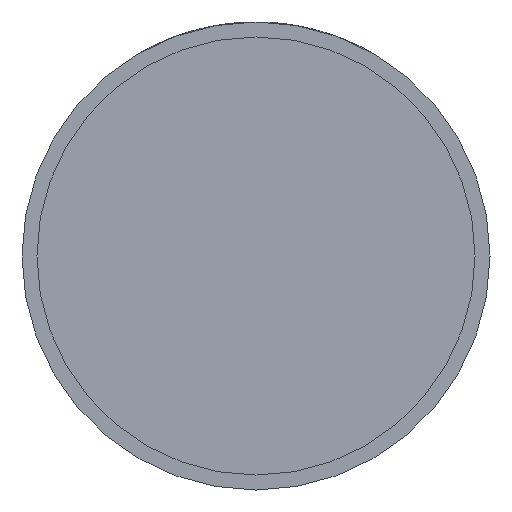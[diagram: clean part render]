
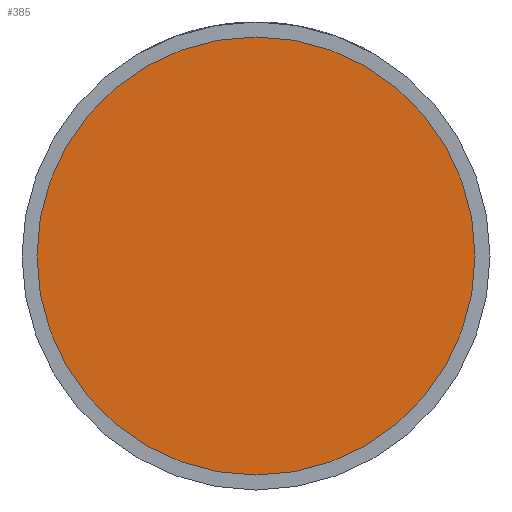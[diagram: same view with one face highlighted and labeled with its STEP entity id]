
A CAD part, front view. The second image highlights one B-rep face of the part: STEP entity #385.
In plain terms, the highlighted planar face has unit normal (0, -1, 0).
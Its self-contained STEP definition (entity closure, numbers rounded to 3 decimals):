
#34 = AXIS2_PLACEMENT_3D ( 'NONE', #4083, #2033, #3403 ) ;
#88 = FACE_OUTER_BOUND ( 'NONE', #685, .T. ) ;
#385 = ADVANCED_FACE ( 'NONE', ( #88 ), #1032, .T. ) ;
#613 = DIRECTION ( 'NONE',  ( 1., 0., 0. ) ) ;
#685 = EDGE_LOOP ( 'NONE', ( #1828, #1409 ) ) ;
#937 = CARTESIAN_POINT ( 'NONE',  ( 0., -20., 0. ) ) ;
#1031 = CARTESIAN_POINT ( 'NONE',  ( 0., -20., 0. ) ) ;
#1032 = PLANE ( 'NONE',  #34 ) ;
#1409 = ORIENTED_EDGE ( 'NONE', *, *, #2066, .T. ) ;
#1672 = VERTEX_POINT ( 'NONE', #4044 ) ;
#1748 = CARTESIAN_POINT ( 'NONE',  ( 33.7, -20., 0. ) ) ;
#1828 = ORIENTED_EDGE ( 'NONE', *, *, #3006, .T. ) ;
#1847 = AXIS2_PLACEMENT_3D ( 'NONE', #937, #3238, #613 ) ;
#1977 = CIRCLE ( 'NONE', #2121, 33.7 ) ;
#2033 = DIRECTION ( 'NONE',  ( 0., -1., 0. ) ) ;
#2066 = EDGE_CURVE ( 'NONE', #1672, #2908, #1977, .T. ) ;
#2121 = AXIS2_PLACEMENT_3D ( 'NONE', #1031, #3724, #4126 ) ;
#2908 = VERTEX_POINT ( 'NONE', #1748 ) ;
#2972 = CIRCLE ( 'NONE', #1847, 33.7 ) ;
#3006 = EDGE_CURVE ( 'NONE', #2908, #1672, #2972, .T. ) ;
#3238 = DIRECTION ( 'NONE',  ( 0., -1., 0. ) ) ;
#3403 = DIRECTION ( 'NONE',  ( 1., 0., 0. ) ) ;
#3724 = DIRECTION ( 'NONE',  ( 0., -1., 0. ) ) ;
#4044 = CARTESIAN_POINT ( 'NONE',  ( -33.7, -20., 0. ) ) ;
#4083 = CARTESIAN_POINT ( 'NONE',  ( 33.7, -20., 0. ) ) ;
#4126 = DIRECTION ( 'NONE',  ( 1., 0., 0. ) ) ;
